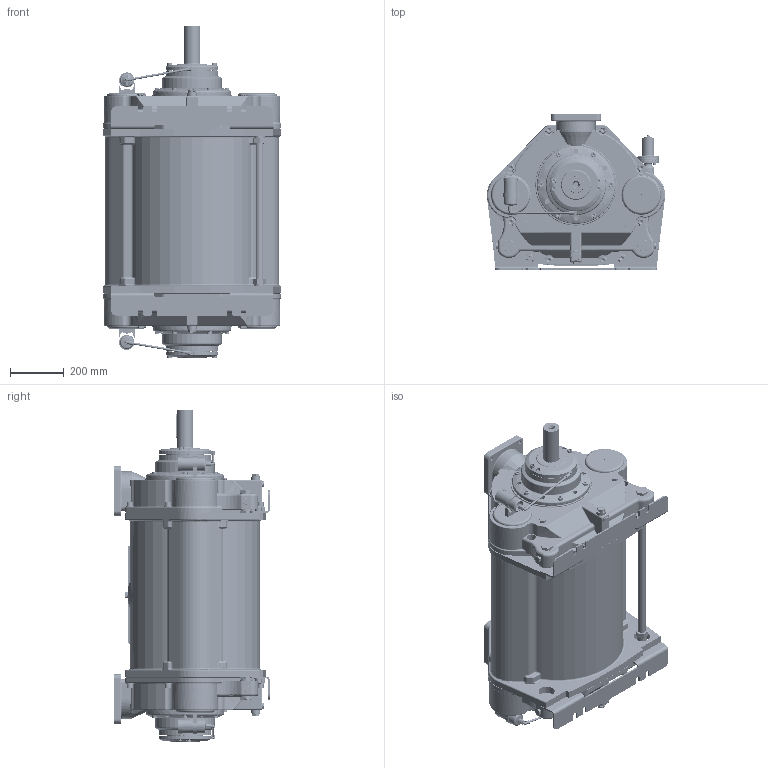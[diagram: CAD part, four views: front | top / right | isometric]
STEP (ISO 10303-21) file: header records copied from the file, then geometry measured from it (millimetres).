
FILE_DESCRIPTION(/* description */ (''),/* implementation_level */ '2;1');
FILE_NAME(/* name */ '1700028B.stp',/* time_stamp */ '2025-06-20T09:40:05+02:00',/* author */ ('JJ'),/* organization */ (''),/* preprocessor_version */ 'ST-DEVELOPER v20',/* originating_system */ 'Autodesk Inventor 2025',/* authorisation */ '');
FILE_SCHEMA (('AUTOMOTIVE_DESIGN { 1 0 10303 214 3 1 1 }'));
Length unit declared in the file: millimetre
Products named in the file (1): 1700028
Bounding box: 662.74 x 578.19 x 1233.2 mm (x, y, z)
Volume: 201601102.8 mm3; surface area: 3421868.3 mm2
Topology: 7 solids, 9 shells, 4855 faces, 12243 edges, 7725 vertices
Faces by surface type: plane 1901, cylinder 1184, bspline 927, torus 417, cone 398, sphere 28
Full cylindrical faces by diameter (mm): 1.5 x16, 3.2 x4, 3.3 x4, 3.5 x18, 4 x2, 4.134 x4, 4.92 x8, 5 x2, 5.3 x2, 6 x10, 6.1 x2, 6.4 x2, 8 x13, 8.5 x2, 8.57 x2, 9.2 x2, 9.7 x2, 9.8 x4, 10 x14, 10.106 x12, 12 x8, 13 x8, 13.5 x4, 13.84 x8, 14.95 x2, 15 x4, 16.662 x2, 17.29 x1, 17.5 x12, 18 x20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
Entity records: 163646 total; most frequent: CARTESIAN_POINT 48651, ORIENTED_EDGE 24240, DIRECTION 21190, EDGE_CURVE 12120, AXIS2_PLACEMENT_3D 7900, VERTEX_POINT 7725, EDGE_LOOP 5451, LINE 5390
